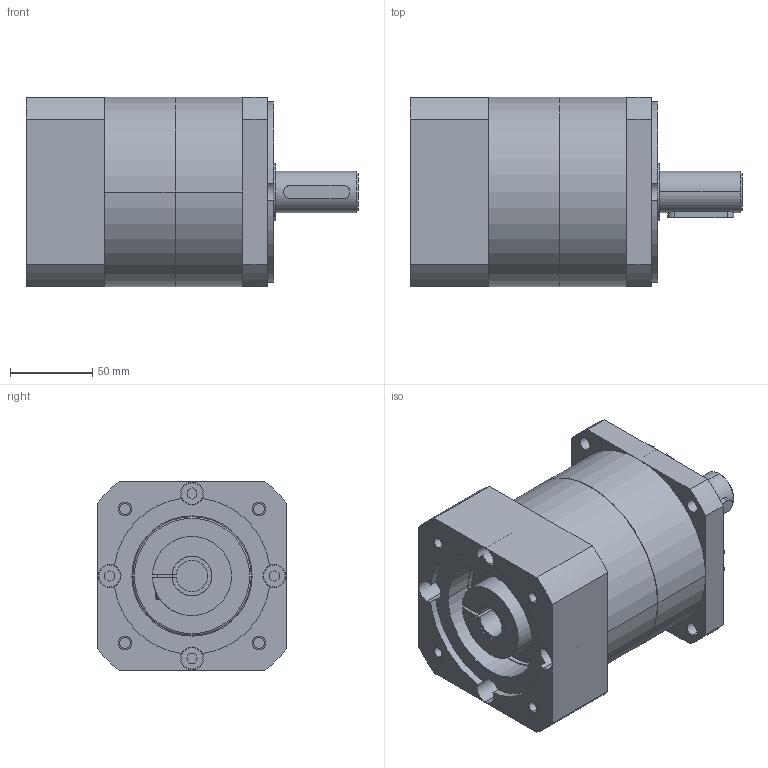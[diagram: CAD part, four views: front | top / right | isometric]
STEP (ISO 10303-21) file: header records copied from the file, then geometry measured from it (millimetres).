
FILE_DESCRIPTION((''),'2;1');
FILE_NAME('MB_PLE_MASTER','2020-03-03T',('agw'),(''),'CREO PARAMETRIC BY PTC INC, 2015290','CREO PARAMETRIC BY PTC INC, 2015290','');
FILE_SCHEMA(('AUTOMOTIVE_DESIGN { 1 0 10303 214 1 1 1 1 }'));
Length unit declared in the file: millimetre
Products named in the file (1): MB_PLE_MASTER
Bounding box: 201.5 x 115 x 115 mm (x, y, z)
Volume: 1629658.3 mm3; surface area: 127309.3 mm2
Topology: 1 solids, 6 shells, 253 faces, 614 edges, 401 vertices
Faces by surface type: plane 130, cylinder 111, cone 6, torus 6
Entity records: 8144 total; most frequent: DIRECTION 1370, CARTESIAN_POINT 1332, ORIENTED_EDGE 1204, EDGE_CURVE 612, AXIS2_PLACEMENT_3D 508, VERTEX_POINT 401, VECTOR 354, LINE 354
